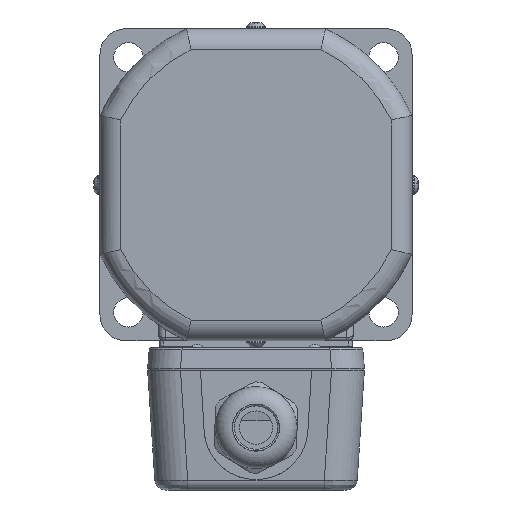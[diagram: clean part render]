
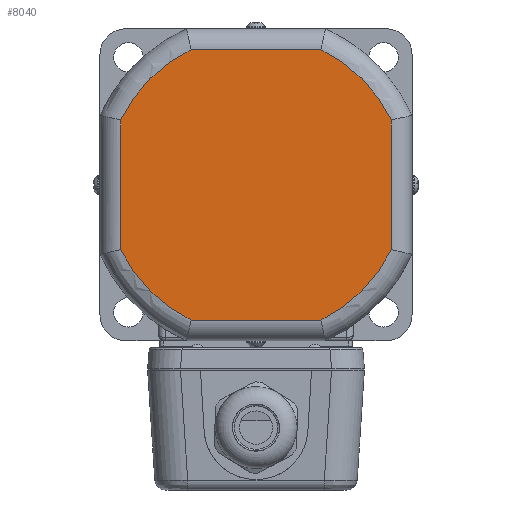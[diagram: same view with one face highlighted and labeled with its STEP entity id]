
A CAD part, left-side view. The second image highlights one B-rep face of the part: STEP entity #8040.
In plain terms, the highlighted planar face has unit normal (-1, 0, 0).
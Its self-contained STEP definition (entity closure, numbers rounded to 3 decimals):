
#787=FACE_OUTER_BOUND('',#1326,.T.);
#1326=EDGE_LOOP('',(#6538,#6539,#6540,#6541,#6542,#6543,#6544,#6545));
#1827=CIRCLE('',#8731,43.25);
#1828=CIRCLE('',#8732,43.25);
#1829=CIRCLE('',#8733,43.25);
#1830=CIRCLE('',#8734,43.25);
#2334=LINE('',#15188,#2908);
#2335=LINE('',#15192,#2909);
#2336=LINE('',#15196,#2910);
#2337=LINE('',#15200,#2911);
#2908=VECTOR('',#10496,37.393);
#2909=VECTOR('',#10499,37.393);
#2910=VECTOR('',#10502,37.393);
#2911=VECTOR('',#10505,37.393);
#3613=VERTEX_POINT('',#15186);
#3614=VERTEX_POINT('',#15187);
#3615=VERTEX_POINT('',#15189);
#3616=VERTEX_POINT('',#15191);
#3617=VERTEX_POINT('',#15193);
#3618=VERTEX_POINT('',#15195);
#3619=VERTEX_POINT('',#15197);
#3620=VERTEX_POINT('',#15199);
#4621=EDGE_CURVE('',#3613,#3614,#2334,.T.);
#4622=EDGE_CURVE('',#3615,#3613,#1827,.T.);
#4623=EDGE_CURVE('',#3616,#3615,#2335,.T.);
#4624=EDGE_CURVE('',#3617,#3616,#1828,.T.);
#4625=EDGE_CURVE('',#3618,#3617,#2336,.T.);
#4626=EDGE_CURVE('',#3619,#3618,#1829,.T.);
#4627=EDGE_CURVE('',#3620,#3619,#2337,.T.);
#4628=EDGE_CURVE('',#3614,#3620,#1830,.T.);
#6538=ORIENTED_EDGE('',*,*,#4621,.F.);
#6539=ORIENTED_EDGE('',*,*,#4622,.F.);
#6540=ORIENTED_EDGE('',*,*,#4623,.F.);
#6541=ORIENTED_EDGE('',*,*,#4624,.F.);
#6542=ORIENTED_EDGE('',*,*,#4625,.F.);
#6543=ORIENTED_EDGE('',*,*,#4626,.F.);
#6544=ORIENTED_EDGE('',*,*,#4627,.F.);
#6545=ORIENTED_EDGE('',*,*,#4628,.F.);
#7179=PLANE('',#8730);
#8040=ADVANCED_FACE('',(#787),#7179,.F.);
#8730=AXIS2_PLACEMENT_3D('',#15185,#10494,#10495);
#8731=AXIS2_PLACEMENT_3D('',#15190,#10497,#10498);
#8732=AXIS2_PLACEMENT_3D('',#15194,#10500,#10501);
#8733=AXIS2_PLACEMENT_3D('',#15198,#10503,#10504);
#8734=AXIS2_PLACEMENT_3D('',#15201,#10506,#10507);
#10494=DIRECTION('center_axis',(1.,0.,0.));
#10495=DIRECTION('ref_axis',(0.,0.,-1.));
#10496=DIRECTION('',(0.,0.,1.));
#10497=DIRECTION('center_axis',(1.,0.,0.));
#10498=DIRECTION('ref_axis',(0.,0.707,-0.707));
#10499=DIRECTION('',(0.,1.,0.));
#10500=DIRECTION('center_axis',(1.,0.,0.));
#10501=DIRECTION('ref_axis',(0.,-0.707,-0.707));
#10502=DIRECTION('',(0.,0.,-1.));
#10503=DIRECTION('center_axis',(1.,0.,0.));
#10504=DIRECTION('ref_axis',(0.,-0.707,0.707));
#10505=DIRECTION('',(0.,-1.,0.));
#10506=DIRECTION('center_axis',(1.,0.,0.));
#10507=DIRECTION('ref_axis',(0.,0.707,0.707));
#15185=CARTESIAN_POINT('Origin',(-17.8,0.,
0.));
#15186=CARTESIAN_POINT('',(-17.8,39.,-18.697));
#15187=CARTESIAN_POINT('',(-17.8,39.,18.697));
#15188=CARTESIAN_POINT('',(-17.8,39.,-18.697));
#15189=CARTESIAN_POINT('',(-17.8,18.697,-39.));
#15190=CARTESIAN_POINT('Origin',(-17.8,0.,
0.));
#15191=CARTESIAN_POINT('',(-17.8,-18.697,-39.));
#15192=CARTESIAN_POINT('',(-17.8,-18.697,-39.));
#15193=CARTESIAN_POINT('',(-17.8,-39.,-18.697));
#15194=CARTESIAN_POINT('Origin',(-17.8,0.,
0.));
#15195=CARTESIAN_POINT('',(-17.8,-39.,18.697));
#15196=CARTESIAN_POINT('',(-17.8,-39.,18.697));
#15197=CARTESIAN_POINT('',(-17.8,-18.697,39.));
#15198=CARTESIAN_POINT('Origin',(-17.8,0.,
0.));
#15199=CARTESIAN_POINT('',(-17.8,18.697,39.));
#15200=CARTESIAN_POINT('',(-17.8,18.697,39.));
#15201=CARTESIAN_POINT('Origin',(-17.8,0.,
0.));
